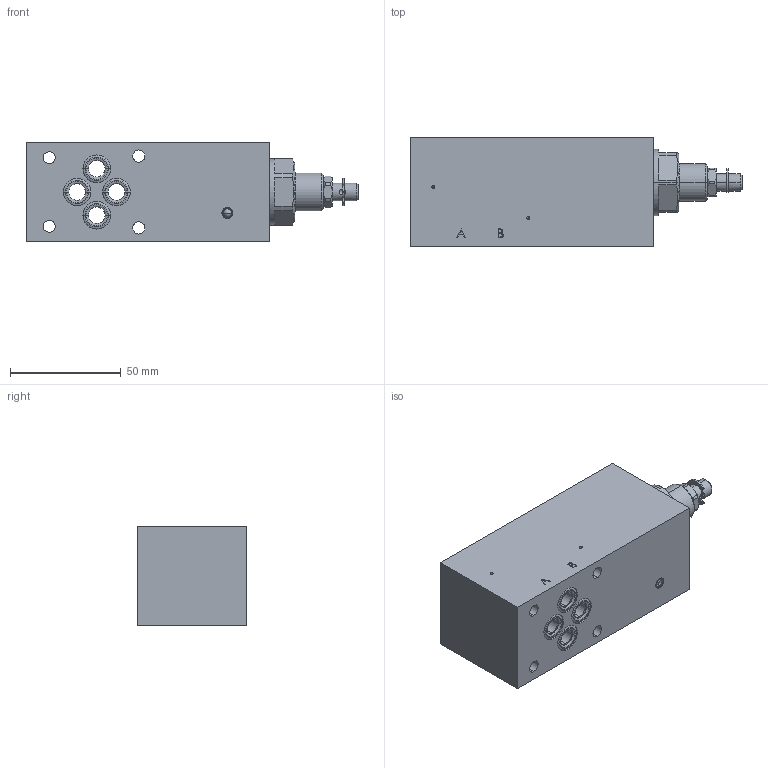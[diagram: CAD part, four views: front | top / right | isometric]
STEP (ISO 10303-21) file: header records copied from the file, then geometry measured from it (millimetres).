
FILE_DESCRIPTION (( 'STEP AP214' ), '1' );
FILE_NAME ('FVSSA06-B.STEP', '2017-03-23T07:13:43', ( '' ), ( '' ), 'SwSTEP 2.0', 'SolidWorks 2016', '' );
FILE_SCHEMA (( 'AUTOMOTIVE_DESIGN' ));
Length unit declared in the file: millimetre
Products named in the file (1): FVSSA06-B
Bounding box: 150.1 x 49.5 x 45 mm (x, y, z)
Volume: 238292.9 mm3; surface area: 40067.4 mm2
Topology: 10 solids, 14 shells, 369 faces, 861 edges, 527 vertices
Faces by surface type: cylinder 131, plane 104, cone 71, bspline 41, sphere 16, torus 6
Entity records: 15725 total; most frequent: CARTESIAN_POINT 3237, DIRECTION 1794, ORIENTED_EDGE 1686, EDGE_CURVE 843, AXIS2_PLACEMENT_3D 728, VERTEX_POINT 527, EDGE_LOOP 422, CIRCLE 399
